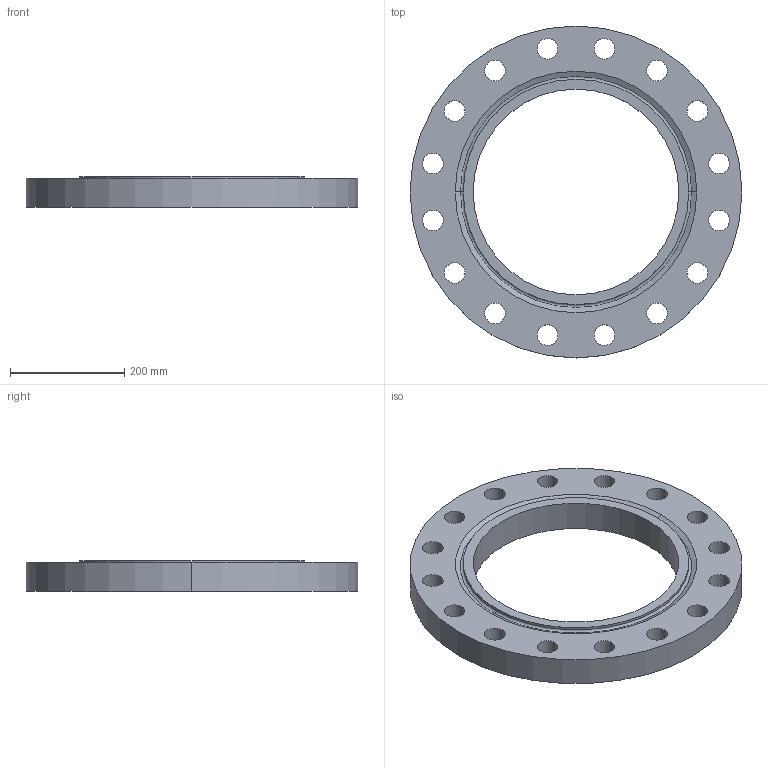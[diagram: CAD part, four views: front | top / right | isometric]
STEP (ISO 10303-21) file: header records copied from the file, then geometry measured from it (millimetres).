
FILE_DESCRIPTION (( 'STEP AP214' ), '1' );
FILE_NAME ('PN40 DN350 Type 01 - Type H Face.STEP', '2019-01-05T21:58:28', ( '' ), ( '' ), 'SwSTEP 2.0', 'SolidWorks 2019', '' );
FILE_SCHEMA (( 'AUTOMOTIVE_DESIGN' ));
Length unit declared in the file: millimetre
Products named in the file (1): PN40 DN350 Type 01 - Type H Face
Bounding box: 580 x 580 x 54 mm (x, y, z)
Volume: 7473612.8 mm3; surface area: 548623 mm2
Topology: 1 solids, 1 shells, 45 faces, 122 edges, 80 vertices
Faces by surface type: cylinder 38, plane 3, torus 2, cone 2
Entity records: 1568 total; most frequent: DIRECTION 296, CARTESIAN_POINT 248, ORIENTED_EDGE 244, AXIS2_PLACEMENT_3D 128, EDGE_CURVE 122, CIRCLE 82, VERTEX_POINT 80, EDGE_LOOP 80
